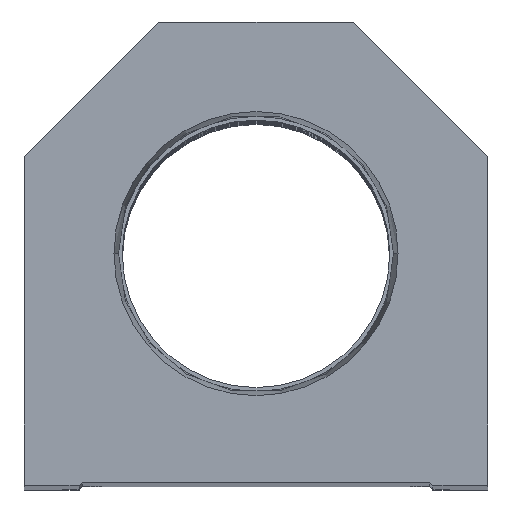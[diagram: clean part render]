
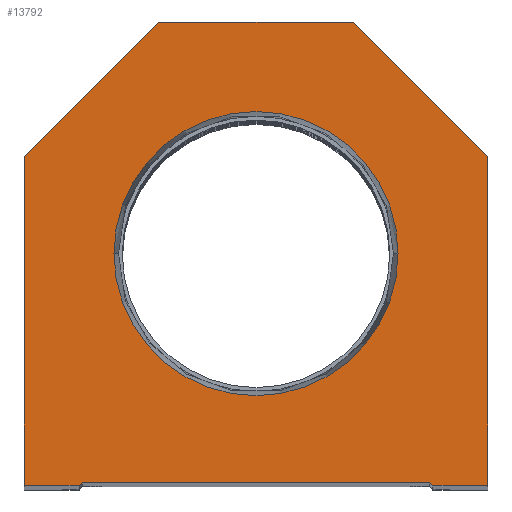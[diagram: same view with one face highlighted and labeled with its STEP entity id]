
A CAD part, top view. The second image highlights one B-rep face of the part: STEP entity #13792.
In plain terms, the highlighted planar face has unit normal (0, 0, 1).
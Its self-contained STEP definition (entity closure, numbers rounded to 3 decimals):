
#719 = LINE ( 'NONE', #20767, #16110 ) ;
#923 = ORIENTED_EDGE ( 'NONE', *, *, #17773, .T. ) ;
#1273 = FACE_OUTER_BOUND ( 'NONE', #19306, .T. ) ;
#2056 = ORIENTED_EDGE ( 'NONE', *, *, #5617, .T. ) ;
#2737 = ORIENTED_EDGE ( 'NONE', *, *, #12184, .F. ) ;
#2799 = VECTOR ( 'NONE', #7042, 1000. ) ;
#3239 = EDGE_CURVE ( 'NONE', #16614, #4524, #13326, .T. ) ;
#3930 = EDGE_CURVE ( 'NONE', #10751, #20146, #8542, .T. ) ;
#3954 = CARTESIAN_POINT ( 'NONE',  ( 28.6, 0.5, 0. ) ) ;
#4002 = CARTESIAN_POINT ( 'NONE',  ( -28.6, 0.5, 0. ) ) ;
#4016 = CARTESIAN_POINT ( 'NONE',  ( -14.55, 14.55, 0. ) ) ;
#4245 = CARTESIAN_POINT ( 'NONE',  ( -28.6, 0.5, 0. ) ) ;
#4524 = VERTEX_POINT ( 'NONE', #4245 ) ;
#4884 = DIRECTION ( 'NONE',  ( 0., 1., 0. ) ) ;
#4896 = CARTESIAN_POINT ( 'NONE',  ( 38.1, 54.1, 0. ) ) ;
#5218 = CARTESIAN_POINT ( 'NONE',  ( -38.1, 0., 0. ) ) ;
#5617 = EDGE_CURVE ( 'NONE', #4524, #15849, #13193, .T. ) ;
#5691 = CIRCLE ( 'NONE', #15636, 23.374 ) ;
#6028 = CARTESIAN_POINT ( 'NONE',  ( -23.374, 38.1, 0. ) ) ;
#6105 = AXIS2_PLACEMENT_3D ( 'NONE', #17523, #16274, #20969 ) ;
#6466 = ORIENTED_EDGE ( 'NONE', *, *, #19333, .T. ) ;
#7042 = DIRECTION ( 'NONE',  ( 0.707, -0.707, 0. ) ) ;
#7458 = LINE ( 'NONE', #21706, #10813 ) ;
#7535 = VERTEX_POINT ( 'NONE', #18043 ) ;
#7653 = EDGE_CURVE ( 'NONE', #15849, #19502, #22060, .T. ) ;
#7849 = LINE ( 'NONE', #9639, #13525 ) ;
#7952 = ORIENTED_EDGE ( 'NONE', *, *, #20657, .F. ) ;
#8155 = VECTOR ( 'NONE', #15236, 1000. ) ;
#8542 = LINE ( 'NONE', #14406, #19585 ) ;
#8633 = EDGE_CURVE ( 'NONE', #20146, #10451, #7458, .T. ) ;
#8675 = LINE ( 'NONE', #12261, #12928 ) ;
#9481 = CARTESIAN_POINT ( 'NONE',  ( 0., 38.1, 0. ) ) ;
#9639 = CARTESIAN_POINT ( 'NONE',  ( 38.1, 54.1, 0. ) ) ;
#9726 = DIRECTION ( 'NONE',  ( 1., 0., 0. ) ) ;
#9769 = CARTESIAN_POINT ( 'NONE',  ( -38.1, 54.1, 0. ) ) ;
#10451 = VERTEX_POINT ( 'NONE', #5218 ) ;
#10486 = VERTEX_POINT ( 'NONE', #6028 ) ;
#10537 = ORIENTED_EDGE ( 'NONE', *, *, #7653, .T. ) ;
#10592 = DIRECTION ( 'NONE',  ( 1., 0., 0. ) ) ;
#10624 = CARTESIAN_POINT ( 'NONE',  ( -28.6, 0., 0. ) ) ;
#10751 = VERTEX_POINT ( 'NONE', #15448 ) ;
#10813 = VECTOR ( 'NONE', #20132, 1000. ) ;
#10941 = CARTESIAN_POINT ( 'NONE',  ( 29.1, 0., 0. ) ) ;
#12021 = EDGE_CURVE ( 'NONE', #19502, #22286, #8675, .T. ) ;
#12184 = EDGE_CURVE ( 'NONE', #7535, #10486, #5691, .T. ) ;
#12261 = CARTESIAN_POINT ( 'NONE',  ( 28.6, 0., 0. ) ) ;
#12562 = PLANE ( 'NONE',  #6105 ) ;
#12928 = VECTOR ( 'NONE', #10592, 1000. ) ;
#13193 = LINE ( 'NONE', #4002, #20012 ) ;
#13254 = CARTESIAN_POINT ( 'NONE',  ( 16., 76.2, 0. ) ) ;
#13326 = LINE ( 'NONE', #4016, #8155 ) ;
#13525 = VECTOR ( 'NONE', #22437, 1000. ) ;
#13550 = ORIENTED_EDGE ( 'NONE', *, *, #3239, .T. ) ;
#13792 = ADVANCED_FACE ( 'NONE', ( #15612, #1273 ), #12562, .T. ) ;
#14406 = CARTESIAN_POINT ( 'NONE',  ( -38.1, 54.1, 0. ) ) ;
#14856 = DIRECTION ( 'NONE',  ( 1., 0., 0. ) ) ;
#14872 = DIRECTION ( 'NONE',  ( 0., 0., 1. ) ) ;
#15110 = CARTESIAN_POINT ( 'NONE',  ( 0., 38.1, 0. ) ) ;
#15236 = DIRECTION ( 'NONE',  ( 0.707, 0.707, 0. ) ) ;
#15448 = CARTESIAN_POINT ( 'NONE',  ( -16., 76.2, 0. ) ) ;
#15612 = FACE_BOUND ( 'NONE', #19194, .T. ) ;
#15636 = AXIS2_PLACEMENT_3D ( 'NONE', #9481, #14872, #9726 ) ;
#15849 = VERTEX_POINT ( 'NONE', #3954 ) ;
#15875 = ORIENTED_EDGE ( 'NONE', *, *, #19344, .T. ) ;
#16110 = VECTOR ( 'NONE', #4884, 1000. ) ;
#16274 = DIRECTION ( 'NONE',  ( 0., 0., 1. ) ) ;
#16614 = VERTEX_POINT ( 'NONE', #16990 ) ;
#16649 = DIRECTION ( 'NONE',  ( 1., 0., 0. ) ) ;
#16990 = CARTESIAN_POINT ( 'NONE',  ( -29.1, 0., 0. ) ) ;
#17385 = CIRCLE ( 'NONE', #23440, 23.374 ) ;
#17488 = ORIENTED_EDGE ( 'NONE', *, *, #3930, .T. ) ;
#17518 = ORIENTED_EDGE ( 'NONE', *, *, #12021, .T. ) ;
#17523 = CARTESIAN_POINT ( 'NONE',  ( 0., 0., 0. ) ) ;
#17589 = EDGE_CURVE ( 'NONE', #10451, #16614, #18034, .T. ) ;
#17773 = EDGE_CURVE ( 'NONE', #22286, #21321, #719, .T. ) ;
#17993 = ORIENTED_EDGE ( 'NONE', *, *, #8633, .T. ) ;
#18034 = LINE ( 'NONE', #10624, #19939 ) ;
#18043 = CARTESIAN_POINT ( 'NONE',  ( 23.374, 38.1, 0. ) ) ;
#18224 = DIRECTION ( 'NONE',  ( -0.707, -0.707, 0. ) ) ;
#18848 = VERTEX_POINT ( 'NONE', #20824 ) ;
#18852 = CARTESIAN_POINT ( 'NONE',  ( 38.1, 0., 0. ) ) ;
#19087 = LINE ( 'NONE', #13254, #20352 ) ;
#19194 = EDGE_LOOP ( 'NONE', ( #2737, #7952 ) ) ;
#19306 = EDGE_LOOP ( 'NONE', ( #19520, #13550, #2056, #10537, #17518, #923, #15875, #6466, #17488, #17993 ) ) ;
#19333 = EDGE_CURVE ( 'NONE', #18848, #10751, #19087, .T. ) ;
#19344 = EDGE_CURVE ( 'NONE', #21321, #18848, #7849, .T. ) ;
#19502 = VERTEX_POINT ( 'NONE', #10941 ) ;
#19520 = ORIENTED_EDGE ( 'NONE', *, *, #17589, .T. ) ;
#19585 = VECTOR ( 'NONE', #18224, 1000. ) ;
#19939 = VECTOR ( 'NONE', #21830, 1000. ) ;
#20012 = VECTOR ( 'NONE', #16649, 1000. ) ;
#20132 = DIRECTION ( 'NONE',  ( 0., -1., 0. ) ) ;
#20146 = VERTEX_POINT ( 'NONE', #9769 ) ;
#20352 = VECTOR ( 'NONE', #20518, 1000. ) ;
#20518 = DIRECTION ( 'NONE',  ( -1., 0., 0. ) ) ;
#20657 = EDGE_CURVE ( 'NONE', #10486, #7535, #17385, .T. ) ;
#20767 = CARTESIAN_POINT ( 'NONE',  ( 38.1, 0., 0. ) ) ;
#20824 = CARTESIAN_POINT ( 'NONE',  ( 16., 76.2, 0. ) ) ;
#20969 = DIRECTION ( 'NONE',  ( 1., 0., 0. ) ) ;
#21321 = VERTEX_POINT ( 'NONE', #4896 ) ;
#21706 = CARTESIAN_POINT ( 'NONE',  ( -38.1, 0., 0. ) ) ;
#21830 = DIRECTION ( 'NONE',  ( 1., 0., 0. ) ) ;
#22060 = LINE ( 'NONE', #23495, #2799 ) ;
#22286 = VERTEX_POINT ( 'NONE', #18852 ) ;
#22381 = DIRECTION ( 'NONE',  ( 0., 0., 1. ) ) ;
#22437 = DIRECTION ( 'NONE',  ( -0.707, 0.707, 0. ) ) ;
#23440 = AXIS2_PLACEMENT_3D ( 'NONE', #15110, #22381, #14856 ) ;
#23495 = CARTESIAN_POINT ( 'NONE',  ( 14.55, 14.55, 0. ) ) ;
